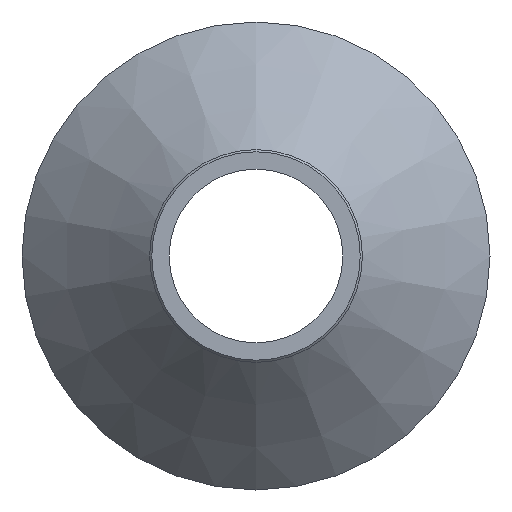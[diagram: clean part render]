
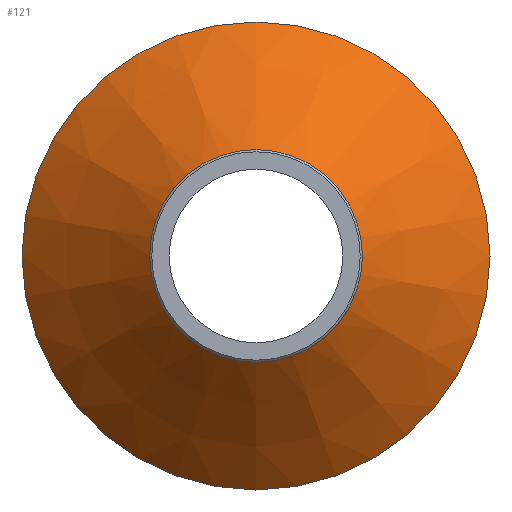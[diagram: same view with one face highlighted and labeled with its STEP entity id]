
A CAD part, left-side view. The second image highlights one B-rep face of the part: STEP entity #121.
In plain terms, the highlighted conical face has half-angle 45 degrees and reference radius 55 mm.
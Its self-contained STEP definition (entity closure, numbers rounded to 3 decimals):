
#22=CONICAL_SURFACE('',#146,55.,0.785);
#28=ORIENTED_EDGE('',*,*,#48,.F.);
#29=ORIENTED_EDGE('',*,*,#47,.T.);
#47=EDGE_CURVE('',#57,#57,#67,.T.);
#48=EDGE_CURVE('',#58,#58,#68,.T.);
#57=VERTEX_POINT('',#210);
#58=VERTEX_POINT('',#213);
#67=CIRCLE('',#145,55.);
#68=CIRCLE('',#147,25.);
#78=EDGE_LOOP('',(#28));
#79=EDGE_LOOP('',(#29));
#98=FACE_BOUND('',#78,.T.);
#99=FACE_BOUND('',#79,.T.);
#121=ADVANCED_FACE('',(#98,#99),#22,.T.);
#145=AXIS2_PLACEMENT_3D('',#209,#169,#170);
#146=AXIS2_PLACEMENT_3D('',#211,#171,#172);
#147=AXIS2_PLACEMENT_3D('',#212,#173,#174);
#169=DIRECTION('',(-1.,0.,0.));
#170=DIRECTION('',(0.,0.,1.));
#171=DIRECTION('',(1.,0.,0.));
#172=DIRECTION('',(0.,0.,-1.));
#173=DIRECTION('',(-1.,0.,0.));
#174=DIRECTION('',(0.,0.,1.));
#209=CARTESIAN_POINT('',(15.,0.,0.));
#210=CARTESIAN_POINT('',(15.,0.,55.));
#211=CARTESIAN_POINT('',(15.,0.,0.));
#212=CARTESIAN_POINT('',(-15.,0.,0.));
#213=CARTESIAN_POINT('',(-15.,0.,25.));
